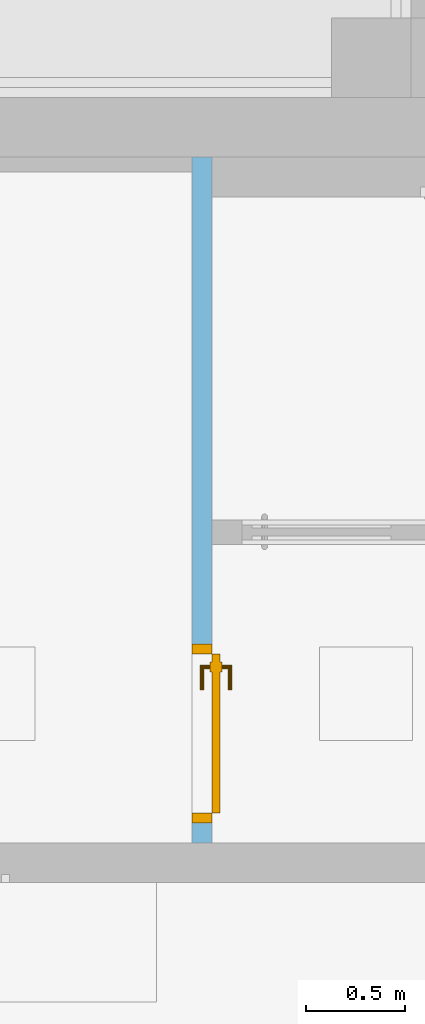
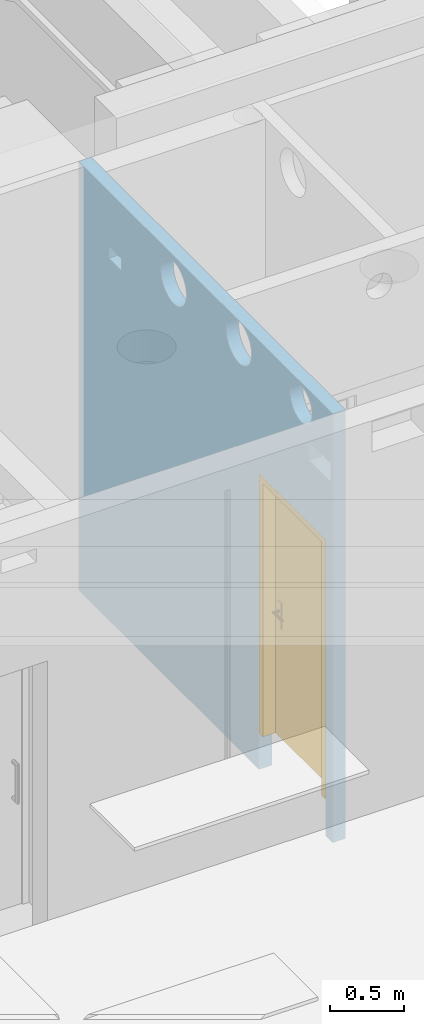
# One storey, part 70 of 140: 1 door, 6 openings, plus 1 element that does not belong to this part.
"""IFC4 building model written with IfcOpenShell, lengths in metres."""

from ifc_helpers import new_model, entity, si_unit, converted_unit, derived_unit, frame, frame_2d, origin, origin_with_axes, place, context, subcontext, project, spatial, polyline, rectangle, outline, extrude, closed_shell, open_shell, surface_model, source, transform, mapped, material, layer, layer_set, layer_usage, type_object, element, fill, save


model = new_model("IFC4")

# Units and contexts
model_context = context("Model", 3, precision=1e-05, world=origin())
body_context = subcontext(model_context, "Body", "Model", "MODEL_VIEW")
ifc_project = project(units=[si_unit("LENGTHUNIT", "METRE"), si_unit("AREAUNIT", "SQUARE_METRE"), si_unit("VOLUMEUNIT", "CUBIC_METRE"), si_unit("MASSUNIT", "GRAM", prefix="KILO"), converted_unit("PLANEANGLEUNIT", "DEGREE", entity("IfcPlaneAngleMeasure", 0.0174532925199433), si_unit("PLANEANGLEUNIT", "RADIAN"), dimensions=[0, 0, 0, 0, 0, 0, 0]), derived_unit("THERMALTRANSMITTANCEUNIT", [(si_unit("POWERUNIT", "WATT"), 1), (si_unit("THERMODYNAMICTEMPERATUREUNIT", "KELVIN"), -1), (si_unit("LENGTHUNIT", "METRE"), -2)]), derived_unit("VOLUMETRICFLOWRATEUNIT", [(si_unit("LENGTHUNIT", "METRE"), 3), (converted_unit("TIMEUNIT", "hour", entity("IfcTimeMeasure", 3600.0), si_unit("TIMEUNIT", "SECOND"), dimensions=[0, 0, 1, 0, 0, 0, 0]), -1), (si_unit("LENGTHUNIT", "METRE"), -1)])], contexts=[model_context])

# Site, building, storey
site_placement = place(None, origin())
site = spatial("IfcSite", under=ifc_project, at=site_placement, Name="3. ASŘ", CompositionType="ELEMENT")
building_placement = place(site_placement, origin())
building = spatial("IfcBuilding", under=site, at=building_placement, Name="Pavilon C", CompositionType="ELEMENT")
storey_placement = place(building_placement, origin())
storey = spatial("IfcBuildingStorey", under=building, at=storey_placement, Name="Půdorys 1.NP", CompositionType="ELEMENT", Elevation=0.0)

# Wall, openings, door
ifc_material = material(Name="SDK - 1 KCE + DVOJITÉ OPLÁŠTĚNÍ")
ifc_layer = layer(ifc_material, 0.1)
ifc_layer_set = layer_set([ifc_layer])
ifc_layer_usage = layer_usage(ifc_layer_set, "AXIS2", "POSITIVE", 0.0)
wall_placement = place(storey_placement, frame((33.45, -7.94999999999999, -0.3), z_axis=(0.0, 0.0, 1.0), x_axis=(0.0, 1.0, 0.0)))
wall = element("IfcWall", 1, at=wall_placement, inside=storey, material=ifc_layer_usage, Name="SDK - 1 KCE + DVOJITÉ OPLÁŠTĚNÍ", context=body_context, shape_type="SweptSolid", body=[
    extrude(rectangle(XDim=3.4499999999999, YDim=0.1, at=frame_2d((1.72499999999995, 0.05), x_axis=(1.0, 0.0))), origin_with_axes(), (0.0, 0.0, 1.0), 3.55),
])
opening_1_placement = place(wall_placement, frame((0.1, 0.0, 0.0), z_axis=(0.0, 1.0, 0.0), x_axis=(0.0, 0.0, 1.0)))
opening_1 = element("IfcOpeningElement", 2, at=opening_1_placement, cuts=wall, Name="Dveřní otvor", ObjectType="Opening", context=body_context, shape_type="SweptSolid", body=[
    extrude(outline(polyline([(0.0, 0.9), (2.45, 0.9), (2.45, 0.0), (0.0, 0.0), (0.0, 0.9)])), origin_with_axes(), (0.0, 0.0, 1.0), 0.1),
])
opening_2_placement = place(wall_placement, frame((2.86400000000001, -2.91038304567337e-14, 3.0), z_axis=(0.0, 1.0, 0.0), x_axis=(0.0, 0.0, 1.0)))
element("IfcOpeningElement", 3, at=opening_2_placement, cuts=wall, Name="ZTI", ObjectType="Opening", context=body_context, shape_type="SweptSolid", body=[
    extrude(outline(polyline([(0.0, 0.17), (0.1, 0.17), (0.1, 0.0), (0.0, 0.0), (0.0, 0.17)])), origin_with_axes(), (0.0, 0.0, 1.0), 0.1),
])
opening_3_placement = place(wall_placement, frame((2.33499999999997, 0.1, 3.155), z_axis=(0.0, -1.0, 0.0), x_axis=(0.0, 0.0, 1.0)))
element("IfcOpeningElement", 4, at=opening_3_placement, cuts=wall, Name="VZT", ObjectType="Opening", context=body_context, shape_type="SweptSolid", body=[
    extrude(outline(polyline([(0.174999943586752, 0.0), (0.156707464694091, 0.000958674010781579), (0.138615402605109, 0.00382418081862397), (0.120921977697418, 0.00856512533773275), (0.103821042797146, 0.0151295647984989), (0.0874999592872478, 0.0234455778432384), (0.0721375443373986, 0.0334220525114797), (0.0579021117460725, 0.0449496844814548), (0.0449496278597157, 0.0579021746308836), (0.033422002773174, 0.0721376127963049), (0.0234455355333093, 0.0875000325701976), (0.0151295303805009, 0.103821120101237), (0.00856509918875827, 0.120922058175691), (0.00382416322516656, 0.138615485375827), (0.000958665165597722, 0.156707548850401), (0.0, 0.175000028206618), (0.000958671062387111, 0.193292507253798), (0.00382417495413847, 0.211384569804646), (0.00856511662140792, 0.229077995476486), (0.0151295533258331, 0.246178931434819), (0.0234455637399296, 0.262500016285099), (0.0334220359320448, 0.277862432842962), (0.0449496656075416, 0.292097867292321), (0.0579021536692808, 0.305050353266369), (0.0721375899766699, 0.316577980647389), (0.0875000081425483, 0.32655445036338), (0.103821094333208, 0.334870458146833), (0.1209220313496, 0.341434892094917), (0.138615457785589, 0.346175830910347), (0.156707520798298, 0.349041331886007), (0.174999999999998, 0.35), (0.193292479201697, 0.349041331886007), (0.211384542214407, 0.346175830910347), (0.229077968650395, 0.341434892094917), (0.246178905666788, 0.334870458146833), (0.262499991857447, 0.32655445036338), (0.277862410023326, 0.316577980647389), (0.292097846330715, 0.305050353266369), (0.305050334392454, 0.292097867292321), (0.316577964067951, 0.277862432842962), (0.326554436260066, 0.262500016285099), (0.334870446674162, 0.246178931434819), (0.341434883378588, 0.229077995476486), (0.346175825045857, 0.211384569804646), (0.349041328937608, 0.193292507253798), (0.349999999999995, 0.175000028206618), (0.349041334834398, 0.156707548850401), (0.346175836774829, 0.138615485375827), (0.341434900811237, 0.120922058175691), (0.334870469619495, 0.103821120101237), (0.326554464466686, 0.0875000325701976), (0.316577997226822, 0.0721376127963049), (0.30505037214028, 0.0579021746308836), (0.292097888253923, 0.0449496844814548), (0.277862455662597, 0.0334220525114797), (0.262500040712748, 0.0234455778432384), (0.246178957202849, 0.0151295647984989), (0.229078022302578, 0.00856512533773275), (0.211384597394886, 0.00382418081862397), (0.193292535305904, 0.000958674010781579), (0.174999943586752, 0.0)])), origin_with_axes(), (0.0, 0.0, 1.0), 0.1),
])
opening_4_placement = place(wall_placement, frame((1.44999999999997, 0.1, 3.2), z_axis=(0.0, -1.0, 0.0), x_axis=(0.0, 0.0, 1.0)))
element("IfcOpeningElement", 5, at=opening_4_placement, cuts=wall, Name="VZT", ObjectType="Opening", context=body_context, shape_type="SweptSolid", body=[
    extrude(outline(polyline([(0.174999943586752, 0.0), (0.156707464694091, 0.000958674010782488), (0.138615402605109, 0.00382418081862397), (0.120921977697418, 0.00856512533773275), (0.103821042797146, 0.0151295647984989), (0.0874999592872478, 0.0234455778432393), (0.0721375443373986, 0.0334220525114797), (0.0579021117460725, 0.0449496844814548), (0.0449496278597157, 0.0579021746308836), (0.033422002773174, 0.0721376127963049), (0.0234455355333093, 0.0875000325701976), (0.0151295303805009, 0.103821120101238), (0.00856509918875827, 0.12092205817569), (0.00382416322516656, 0.138615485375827), (0.000958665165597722, 0.156707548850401), (0.0, 0.175000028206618), (0.000958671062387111, 0.193292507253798), (0.00382417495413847, 0.211384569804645), (0.00856511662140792, 0.229077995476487), (0.0151295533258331, 0.246178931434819), (0.0234455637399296, 0.262500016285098), (0.0334220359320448, 0.277862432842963), (0.0449496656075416, 0.292097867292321), (0.0579021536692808, 0.30505035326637), (0.0721375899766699, 0.31657798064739), (0.0875000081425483, 0.32655445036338), (0.103821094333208, 0.334870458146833), (0.1209220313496, 0.341434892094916), (0.138615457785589, 0.346175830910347), (0.156707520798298, 0.349041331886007), (0.174999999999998, 0.35), (0.193292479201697, 0.349041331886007), (0.211384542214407, 0.346175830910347), (0.229077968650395, 0.341434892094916), (0.246178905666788, 0.334870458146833), (0.262499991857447, 0.32655445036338), (0.277862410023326, 0.31657798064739), (0.292097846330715, 0.30505035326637), (0.305050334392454, 0.292097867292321), (0.316577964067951, 0.277862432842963), (0.326554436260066, 0.262500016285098), (0.334870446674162, 0.246178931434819), (0.341434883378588, 0.229077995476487), (0.346175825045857, 0.211384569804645), (0.349041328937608, 0.193292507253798), (0.349999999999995, 0.175000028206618), (0.349041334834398, 0.156707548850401), (0.346175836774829, 0.138615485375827), (0.341434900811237, 0.12092205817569), (0.334870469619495, 0.103821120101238), (0.326554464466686, 0.0875000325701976), (0.316577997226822, 0.0721376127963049), (0.30505037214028, 0.0579021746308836), (0.292097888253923, 0.0449496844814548), (0.277862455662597, 0.0334220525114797), (0.262500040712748, 0.0234455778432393), (0.246178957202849, 0.0151295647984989), (0.229078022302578, 0.00856512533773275), (0.211384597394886, 0.00382418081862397), (0.193292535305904, 0.000958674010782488), (0.174999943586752, 0.0)])), origin_with_axes(), (0.0, 0.0, 1.0), 0.1),
])
opening_5_placement = place(wall_placement, frame((0.579999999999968, 0.1, 3.225), z_axis=(0.0, -1.0, 0.0), x_axis=(0.0, 0.0, 1.0)))
element("IfcOpeningElement", 6, at=opening_5_placement, cuts=wall, Name="VZT", ObjectType="Opening", context=body_context, shape_type="SweptSolid", body=[
    extrude(outline(polyline([(0.149999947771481, 0.0), (0.13432068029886, 0.000821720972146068), (0.11881319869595, 0.00327787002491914), (0.103647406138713, 0.00734153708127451), (0.0889894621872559, 0.0129681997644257), (0.0749999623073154, 0.0200962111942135), (0.0618321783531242, 0.028647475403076), (0.0496303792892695, 0.0385283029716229), (0.0385282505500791, 0.0496304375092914), (0.0286474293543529, 0.0618322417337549), (0.0200961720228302, 0.075000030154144), (0.0129681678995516, 0.0889895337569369), (0.00734151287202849, 0.103647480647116), (0.00327785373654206, 0.118813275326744), (0.000821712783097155, 0.134320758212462), (0.0, 0.150000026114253), (0.000821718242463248, 0.165679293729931), (0.00327786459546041, 0.181186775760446), (0.00734152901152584, 0.196352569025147), (0.0129681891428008, 0.211010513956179), (0.0200961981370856, 0.225000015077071), (0.0286474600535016, 0.238167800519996), (0.0385282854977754, 0.250369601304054), (0.0496304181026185, 0.261471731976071), (0.0618322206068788, 0.271352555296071), (0.0750000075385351, 0.279903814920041), (0.0889895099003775, 0.287031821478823), (0.103647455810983, 0.292658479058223), (0.118813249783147, 0.296722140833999), (0.134320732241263, 0.299178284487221), (0.149999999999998, 0.3), (0.165679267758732, 0.299178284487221), (0.181186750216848, 0.296722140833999), (0.196352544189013, 0.292658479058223), (0.211010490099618, 0.287031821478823), (0.22499999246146, 0.279903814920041), (0.238167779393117, 0.271352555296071), (0.250369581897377, 0.261471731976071), (0.26147171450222, 0.250369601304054), (0.271352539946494, 0.238167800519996), (0.27990380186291, 0.225000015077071), (0.287031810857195, 0.211010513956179), (0.29265847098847, 0.196352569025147), (0.296722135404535, 0.181186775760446), (0.299178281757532, 0.165679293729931), (0.299999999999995, 0.150000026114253), (0.299178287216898, 0.134320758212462), (0.296722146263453, 0.118813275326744), (0.292658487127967, 0.103647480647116), (0.287031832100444, 0.0889895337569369), (0.279903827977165, 0.075000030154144), (0.271352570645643, 0.0618322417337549), (0.261471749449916, 0.0496304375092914), (0.250369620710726, 0.0385283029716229), (0.238167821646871, 0.028647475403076), (0.22500003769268, 0.0200962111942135), (0.21101053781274, 0.0129681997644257), (0.196352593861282, 0.00734153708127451), (0.181186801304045, 0.00327787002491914), (0.165679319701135, 0.000821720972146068), (0.149999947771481, 0.0)])), origin_with_axes(), (0.0, 0.0, 1.0), 0.1),
])
opening_6_placement = place(wall_placement, frame((0.0249999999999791, 0.0, 2.97), z_axis=(0.0, 1.0, 0.0), x_axis=(0.0, 0.0, 1.0)))
element("IfcOpeningElement", 7, at=opening_6_placement, cuts=wall, Name="ZTI", ObjectType="Opening", context=body_context, shape_type="SweptSolid", body=[
    extrude(outline(polyline([(0.0, 0.3), (0.15, 0.3), (0.15, 0.0), (0.0, 0.0), (0.0, 0.3)])), origin_with_axes(), (0.0, 0.0, 1.0), 0.1),
])
door_type = type_object("IfcDoorType", Name="II.D02", OperationType="NOTDEFINED", ParameterTakesPrecedence=False, PredefinedType="DOOR")
shared_shape = source(origin_with_axes(), body_context, "Body", "SurfaceModel", [
    surface_model("IfcShellBasedSurfaceModel", [(0.0, 0.1, 2.149), (0.0, 0.1, -5.6843418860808e-17), (0.05, 0.1, -5.6843418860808e-17), (0.05, 0.1, 2.149), (0.0, 0.0, -5.6843418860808e-17), (0.0, 2.70006239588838e-16, 2.149), (0.05, 2.70006239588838e-16, 2.149), (0.05, 0.0, -5.6843418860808e-17)], [closed_shell([[[0, 1, 2, 3]], [[4, 5, 6, 7]], [[1, 0, 5, 4]], [[2, 1, 4, 7]], [[3, 2, 7, 6]], [[0, 3, 6, 5]]], orient=[[False], [False], [False], [False], [False], [False]])]),
    surface_model("IfcShellBasedSurfaceModel", [(0.85, 0.1, 2.149), (0.85, 0.1, -5.6843418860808e-17), (0.9, 0.1, -5.6843418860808e-17), (0.9, 0.1, 2.149), (0.85, 0.0, -5.6843418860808e-17), (0.85, 2.70006239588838e-16, 2.149), (0.9, 2.70006239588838e-16, 2.149), (0.9, 0.0, -5.6843418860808e-17)], [closed_shell([[[0, 1, 2, 3]], [[4, 5, 6, 7]], [[1, 0, 5, 4]], [[2, 1, 4, 7]], [[3, 2, 7, 6]], [[0, 3, 6, 5]]], orient=[[False], [False], [False], [False], [False], [False]])]),
    surface_model("IfcShellBasedSurfaceModel", [(0.05, 0.1, 2.149), (0.05, 0.1, 2.099), (0.85, 0.1, 2.099), (0.85, 0.1, 2.149), (0.05, 2.55795384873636e-16, 2.099), (0.05, 2.55795384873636e-16, 2.149), (0.85, 2.55795384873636e-16, 2.149), (0.85, 2.55795384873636e-16, 2.099)], [closed_shell([[[0, 1, 2, 3]], [[4, 5, 6, 7]], [[1, 0, 5, 4]], [[2, 1, 4, 7]], [[3, 2, 7, 6]], [[0, 3, 6, 5]]], orient=[[False], [False], [False], [False], [False], [False]])]),
    surface_model("IfcShellBasedSurfaceModel", [(0.05, 0.14, 2.099), (0.05, 0.14, -5.6843418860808e-17), (0.85, 0.14, -5.6843418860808e-17), (0.85, 0.14, 2.099), (0.05, 0.1, -5.6843418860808e-17), (0.05, 0.1, 2.099), (0.85, 0.1, 2.099), (0.85, 0.1, -5.6843418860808e-17)], [closed_shell([[[0, 1, 2, 3]], [[4, 5, 6, 7]], [[1, 0, 5, 4]], [[2, 1, 4, 7]], [[3, 2, 7, 6]], [[0, 3, 6, 5]]], orient=[[False], [False], [False], [False], [False], [False]])]),
    surface_model("IfcShellBasedSurfaceModel", [(0.76, 0.1, 1.125), (0.76, 0.1, 0.91), (0.81, 0.1, 0.91), (0.81, 0.1, 1.125), (0.76, 0.0900000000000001, 0.91), (0.76, 0.0900000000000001, 1.125), (0.81, 0.0900000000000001, 1.125), (0.81, 0.0900000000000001, 0.91)], [closed_shell([[[0, 1, 2, 3]], [[4, 5, 6, 7]], [[1, 0, 5, 4]], [[2, 1, 4, 7]], [[3, 2, 7, 6]], [[0, 3, 6, 5]]], orient=[[False], [False], [False], [False], [False], [False]])]),
    surface_model("IfcShellBasedSurfaceModel", [(0.785, 0.0900000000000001, 1.06), (0.78, 0.0900000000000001, 1.05866025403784), (0.776339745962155, 0.0900000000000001, 1.055), (0.775, 0.0900000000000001, 1.05), (0.776339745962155, 0.0900000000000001, 1.045), (0.78, 0.0900000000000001, 1.04133974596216), (0.785, 0.0900000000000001, 1.04), (0.79, 0.0900000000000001, 1.04133974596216), (0.793660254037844, 0.0900000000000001, 1.045), (0.795, 0.0900000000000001, 1.05), (0.793660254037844, 0.0900000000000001, 1.055), (0.79, 0.0900000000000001, 1.05866025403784), (0.79, 0.0450000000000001, 1.05866025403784), (0.785, 0.0500000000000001, 1.06), (0.793660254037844, 0.0413397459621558, 1.055), (0.795, 0.0400000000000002, 1.05), (0.793660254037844, 0.0413397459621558, 1.045), (0.79, 0.0450000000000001, 1.04133974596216), (0.785, 0.0500000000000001, 1.04), (0.78, 0.0550000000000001, 1.04133974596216), (0.776339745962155, 0.0586602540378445, 1.045), (0.775, 0.0600000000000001, 1.05), (0.776339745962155, 0.0586602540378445, 1.055), (0.78, 0.0550000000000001, 1.05866025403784), (0.67, 0.0450000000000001, 1.05866025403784), (0.67, 0.0500000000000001, 1.06), (0.67, 0.0413397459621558, 1.055), (0.67, 0.0400000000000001, 1.05), (0.67, 0.0413397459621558, 1.045), (0.67, 0.0450000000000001, 1.04133974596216), (0.67, 0.0500000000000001, 1.04), (0.67, 0.0550000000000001, 1.04133974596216), (0.67, 0.0586602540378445, 1.045), (0.67, 0.0600000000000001, 1.05), (0.67, 0.0586602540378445, 1.055), (0.67, 0.0550000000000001, 1.05866025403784)], [open_shell([[[0, 1, 2, 3, 4, 5, 6, 7, 8, 9, 10, 11]], [[0, 11, 12, 13]], [[11, 10, 14, 12]], [[10, 9, 15, 14]], [[9, 8, 16, 15]], [[8, 7, 17, 16]], [[7, 6, 18, 17]], [[6, 5, 19, 18]], [[5, 4, 20, 19]], [[4, 3, 21, 20]], [[3, 2, 22, 21]], [[2, 1, 23, 22]], [[1, 0, 13, 23]], [[13, 12, 24, 25]], [[12, 14, 26, 24]], [[14, 15, 27, 26]], [[15, 16, 28, 27]], [[16, 17, 29, 28]], [[17, 18, 30, 29]], [[18, 19, 31, 30]], [[19, 20, 32, 31]], [[20, 21, 33, 32]], [[21, 22, 34, 33]], [[22, 23, 35, 34]], [[23, 13, 25, 35]]], orient=[[False], [False], [False], [False], [False], [False], [False], [False], [False], [False], [False], [False], [False], [False], [False], [False], [False], [False], [False], [False], [False], [False], [False], [False], [False]])]),
    surface_model("IfcShellBasedSurfaceModel", [(0.76, 0.14, 1.125), (0.81, 0.14, 1.125), (0.81, 0.14, 0.91), (0.76, 0.14, 0.91), (0.76, 0.15, 0.91), (0.81, 0.15, 0.91), (0.81, 0.15, 1.125), (0.76, 0.15, 1.125)], [closed_shell([[[0, 1, 2, 3]], [[4, 5, 6, 7]], [[3, 4, 7, 0]], [[2, 5, 4, 3]], [[1, 6, 5, 2]], [[0, 7, 6, 1]]], orient=[[False], [False], [False], [False], [False], [False]])]),
    surface_model("IfcShellBasedSurfaceModel", [(0.785, 0.15, 1.06), (0.79, 0.15, 1.05866025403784), (0.793660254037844, 0.15, 1.055), (0.795, 0.15, 1.05), (0.793660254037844, 0.15, 1.045), (0.79, 0.15, 1.04133974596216), (0.785, 0.15, 1.04), (0.78, 0.15, 1.04133974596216), (0.776339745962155, 0.15, 1.045), (0.775, 0.15, 1.05), (0.776339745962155, 0.15, 1.055), (0.78, 0.15, 1.05866025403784), (0.785, 0.19, 1.06), (0.79, 0.195, 1.05866025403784), (0.793660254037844, 0.198660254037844, 1.055), (0.795, 0.2, 1.05), (0.793660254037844, 0.198660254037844, 1.045), (0.79, 0.195, 1.04133974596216), (0.785, 0.19, 1.04), (0.78, 0.185, 1.04133974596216), (0.776339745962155, 0.181339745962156, 1.045), (0.775, 0.18, 1.05), (0.776339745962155, 0.181339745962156, 1.055), (0.78, 0.185, 1.05866025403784), (0.67, 0.19, 1.06), (0.67, 0.195, 1.05866025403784), (0.67, 0.198660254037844, 1.055), (0.67, 0.2, 1.05), (0.67, 0.198660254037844, 1.045), (0.67, 0.195, 1.04133974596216), (0.67, 0.19, 1.04), (0.67, 0.185, 1.04133974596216), (0.67, 0.181339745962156, 1.045), (0.67, 0.18, 1.05), (0.67, 0.181339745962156, 1.055), (0.67, 0.185, 1.05866025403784)], [open_shell([[[0, 1, 2, 3, 4, 5, 6, 7, 8, 9, 10, 11]], [[0, 12, 13, 1]], [[1, 13, 14, 2]], [[2, 14, 15, 3]], [[3, 15, 16, 4]], [[4, 16, 17, 5]], [[5, 17, 18, 6]], [[6, 18, 19, 7]], [[7, 19, 20, 8]], [[8, 20, 21, 9]], [[9, 21, 22, 10]], [[10, 22, 23, 11]], [[11, 23, 12, 0]], [[12, 24, 25, 13]], [[13, 25, 26, 14]], [[14, 26, 27, 15]], [[15, 27, 28, 16]], [[16, 28, 29, 17]], [[17, 29, 30, 18]], [[18, 30, 31, 19]], [[19, 31, 32, 20]], [[20, 32, 33, 21]], [[21, 33, 34, 22]], [[22, 34, 35, 23]], [[23, 35, 24, 12]]], orient=[[False], [False], [False], [False], [False], [False], [False], [False], [False], [False], [False], [False], [False], [False], [False], [False], [False], [False], [False], [False], [False], [False], [False], [False], [False]])]),
])
door_placement = place(opening_1_placement, frame((0.301, 1.81898940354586e-15, 0.100000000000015), z_axis=(1.0, 0.0, 0.0), x_axis=(0.0, 1.0, -2.44929359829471e-16)))
door = element("IfcDoor", 8, at=door_placement, inside=storey, type_object=door_type, Name="II.D02", OverallHeight=2.45, OverallWidth=0.9, context=body_context, shape_type="MappedRepresentation", body=[
    mapped(shared_shape, transform((0.0, 0.0, 0.0), x_axis=(1.0, 0.0, 0.0), y_axis=(0.0, -1.0, 0.0), z_axis=(0.0, 0.0, 1.0), scale=1.0)),
])
fill(opening_1, door)

save(model, "model.ifc")
